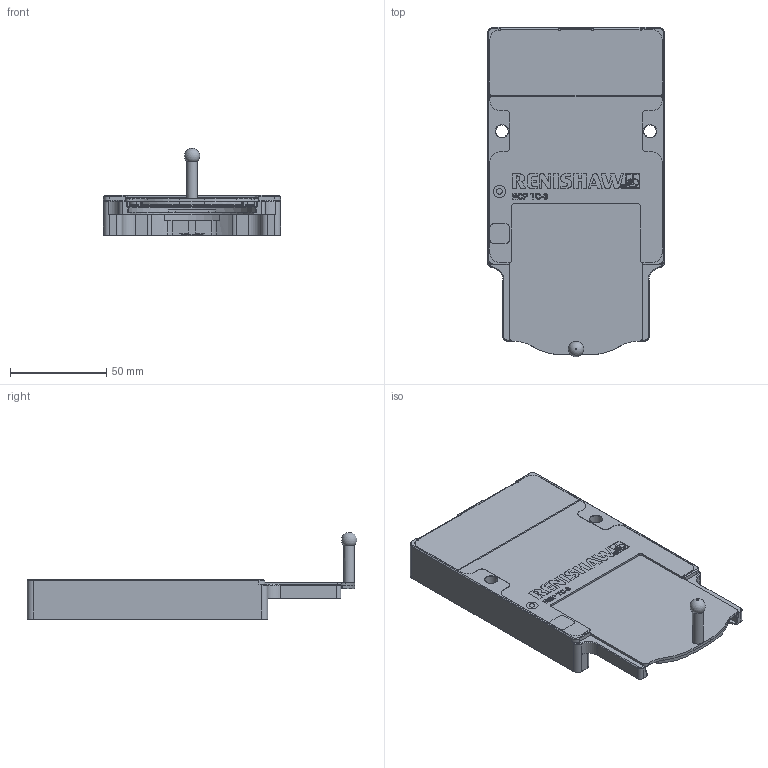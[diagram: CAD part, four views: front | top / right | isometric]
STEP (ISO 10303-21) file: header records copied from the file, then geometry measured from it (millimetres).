
FILE_DESCRIPTION(/* description */ (''),/* implementation_level */ '2;1');
FILE_NAME(/* name */ 'LA-3061-3420-C.stp',/* time_stamp */ '2018-10-04T08:26:22+01:00',/* author */ (''),/* organization */ (''),/* preprocessor_version */ 'ST-DEVELOPER v16',/* originating_system */ 'SIEMENS PLM Software NX 10.0',/* authorisation */ '');
FILE_SCHEMA (('AUTOMOTIVE_DESIGN { 1 0 10303 214 3 1 1 1 }'));
Length unit declared in the file: millimetre
Products named in the file (3): LA-3061-3308_C; LA-3061-3338_A; LA-3061-3420_C
Assembly tree (2 placements, depth 2):
  LA-3061-3420_C
    LA-3061-3338_A
    LA-3061-3308_C
Bounding box: 92 x 171.22 x 45.37 mm (x, y, z)
Volume: 233613.5 mm3; surface area: 48885.7 mm2
Topology: 2 solids, 2 shells, 313 faces, 979 edges, 709 vertices
Faces by surface type: plane 180, cylinder 95, cone 37, sphere 1
Full cylindrical faces by diameter (mm): 5.6 x1, 6.5 x2, 11 x2
Entity records: 12211 total; most frequent: CARTESIAN_POINT 2712, ORIENTED_EDGE 1928, DIRECTION 1704, EDGE_CURVE 964, VERTEX_POINT 706, AXIS2_PLACEMENT_3D 590, LINE 524, VECTOR 524
